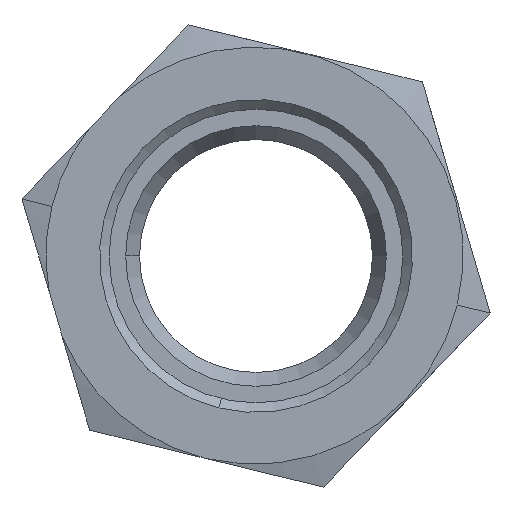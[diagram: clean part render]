
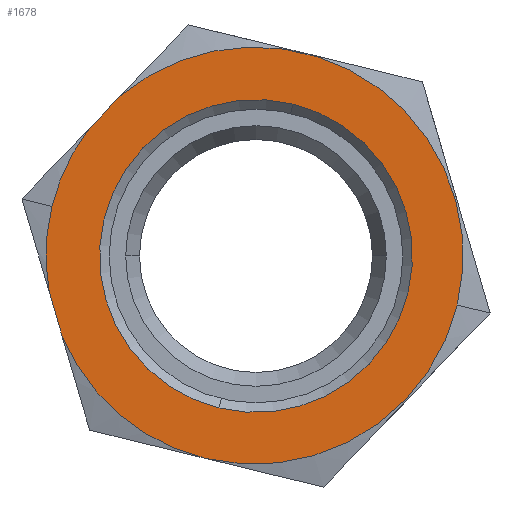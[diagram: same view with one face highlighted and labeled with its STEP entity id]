
A CAD part, left-side view. The second image highlights one B-rep face of the part: STEP entity #1678.
In plain terms, the highlighted planar face has unit normal (-1, 0, 0) as drawn and (0, 0, 1) by its records, which use the part's own axes.
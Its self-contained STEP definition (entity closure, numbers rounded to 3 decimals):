
#1188=CARTESIAN_POINT('',(0.,12.0,14.));
#1189=VERTEX_POINT('',#1188);
#1198=CARTESIAN_POINT('',(4.814,10.992,14.));
#1199=VERTEX_POINT('',#1198);
#1200=CARTESIAN_POINT('',(0.0,0.0,14.));
#1201=DIRECTION('',(0.0,0.0,1.0));
#1202=DIRECTION('',(0.0,1.0,0.0));
#1203=AXIS2_PLACEMENT_3D('',#1200,#1201,#1202);
#1204=CIRCLE('',#1203,12.0);
#1205=EDGE_CURVE('',#1199,#1189,#1204,.T.);
#1245=CARTESIAN_POINT('',(0.,-12.0,14.));
#1246=VERTEX_POINT('',#1245);
#1298=CARTESIAN_POINT('',(7.112,9.665,14.));
#1299=VERTEX_POINT('',#1298);
#1313=CARTESIAN_POINT('',(0.0,0.0,14.));
#1314=DIRECTION('',(0.0,0.0,1.0));
#1315=DIRECTION('',(0.0,1.0,0.0));
#1316=AXIS2_PLACEMENT_3D('',#1313,#1314,#1315);
#1317=CIRCLE('',#1316,12.0);
#1318=EDGE_CURVE('',#1246,#1299,#1317,.T.);
#1370=CARTESIAN_POINT('',(-9.,-0.085,14.0));
#1371=VERTEX_POINT('',#1370);
#1385=CARTESIAN_POINT('',(9.,-0.085,14.));
#1386=VERTEX_POINT('',#1385);
#1393=CARTESIAN_POINT('',(0.,-0.085,14.));
#1394=DIRECTION('',(0.0,0.0,1.0));
#1395=DIRECTION('',(-1.0,0.0,0.0));
#1396=AXIS2_PLACEMENT_3D('',#1393,#1394,#1395);
#1397=CIRCLE('',#1396,9.0);
#1398=EDGE_CURVE('',#1386,#1371,#1397,.T.);
#1606=CARTESIAN_POINT('',(0.,-0.085,14.));
#1607=DIRECTION('',(0.0,0.0,1.0));
#1608=DIRECTION('',(-1.0,0.0,0.0));
#1609=AXIS2_PLACEMENT_3D('',#1606,#1607,#1608);
#1610=CIRCLE('',#1609,9.0);
#1611=EDGE_CURVE('',#1371,#1386,#1610,.T.);
#1618=CARTESIAN_POINT('',(0.,-0.085,14.));
#1619=DIRECTION('',(0.0,0.0,1.0));
#1620=DIRECTION('',(1.0,0.0,0.0));
#1621=AXIS2_PLACEMENT_3D('',#1618,#1619,#1620);
#1622=PLANE('',#1621);
#1623=CARTESIAN_POINT('',(-7.113,9.664,14.));
#1624=VERTEX_POINT('',#1623);
#1625=CARTESIAN_POINT('',(-12.,0.068,14.));
#1626=VERTEX_POINT('',#1625);
#1627=CARTESIAN_POINT('',(0.0,0.0,14.));
#1628=DIRECTION('',(0.0,0.0,1.0));
#1629=DIRECTION('',(0.0,1.0,0.0));
#1630=AXIS2_PLACEMENT_3D('',#1627,#1628,#1629);
#1631=CIRCLE('',#1630,12.0);
#1632=EDGE_CURVE('',#1624,#1626,#1631,.T.);
#1633=ORIENTED_EDGE('',*,*,#1632,.T.);
#1634=CARTESIAN_POINT('',(-12.,-0.068,14.));
#1635=VERTEX_POINT('',#1634);
#1636=CARTESIAN_POINT('',(-12.,-0.068,14.));
#1637=DIRECTION('',(0.0,1.0,0.0));
#1638=VECTOR('',#1637,0.135);
#1639=LINE('',#1636,#1638);
#1640=EDGE_CURVE('',#1635,#1626,#1639,.T.);
#1641=ORIENTED_EDGE('',*,*,#1640,.F.);
#1642=CARTESIAN_POINT('',(0.0,0.0,14.));
#1643=DIRECTION('',(0.0,0.0,1.0));
#1644=DIRECTION('',(0.0,1.0,0.0));
#1645=AXIS2_PLACEMENT_3D('',#1642,#1643,#1644);
#1646=CIRCLE('',#1645,12.0);
#1647=EDGE_CURVE('',#1635,#1246,#1646,.T.);
#1648=ORIENTED_EDGE('',*,*,#1647,.T.);
#1649=ORIENTED_EDGE('',*,*,#1318,.T.);
#1650=CARTESIAN_POINT('',(4.814,10.992,14.));
#1651=DIRECTION('',(0.866,-0.5,0.0));
#1652=VECTOR('',#1651,2.653);
#1653=LINE('',#1650,#1652);
#1654=EDGE_CURVE('',#1199,#1299,#1653,.T.);
#1655=ORIENTED_EDGE('',*,*,#1654,.F.);
#1656=ORIENTED_EDGE('',*,*,#1205,.T.);
#1657=CARTESIAN_POINT('',(-4.813,10.993,14.));
#1658=VERTEX_POINT('',#1657);
#1659=CARTESIAN_POINT('',(0.0,0.0,14.));
#1660=DIRECTION('',(0.0,0.0,1.0));
#1661=DIRECTION('',(0.0,1.0,0.0));
#1662=AXIS2_PLACEMENT_3D('',#1659,#1660,#1661);
#1663=CIRCLE('',#1662,12.0);
#1664=EDGE_CURVE('',#1189,#1658,#1663,.T.);
#1665=ORIENTED_EDGE('',*,*,#1664,.T.);
#1666=CARTESIAN_POINT('',(-7.113,9.664,14.));
#1667=DIRECTION('',(0.866,0.5,0.0));
#1668=VECTOR('',#1667,2.657);
#1669=LINE('',#1666,#1668);
#1670=EDGE_CURVE('',#1624,#1658,#1669,.T.);
#1671=ORIENTED_EDGE('',*,*,#1670,.F.);
#1672=EDGE_LOOP('',(#1633,#1641,#1648,#1649,#1655,#1656,#1665,#1671));
#1673=FACE_OUTER_BOUND('',#1672,.T.);
#1674=ORIENTED_EDGE('',*,*,#1398,.F.);
#1675=ORIENTED_EDGE('',*,*,#1611,.F.);
#1676=EDGE_LOOP('',(#1674,#1675));
#1677=FACE_BOUND('',#1676,.T.);
#1678=ADVANCED_FACE('',(#1673,#1677),#1622,.T.);
